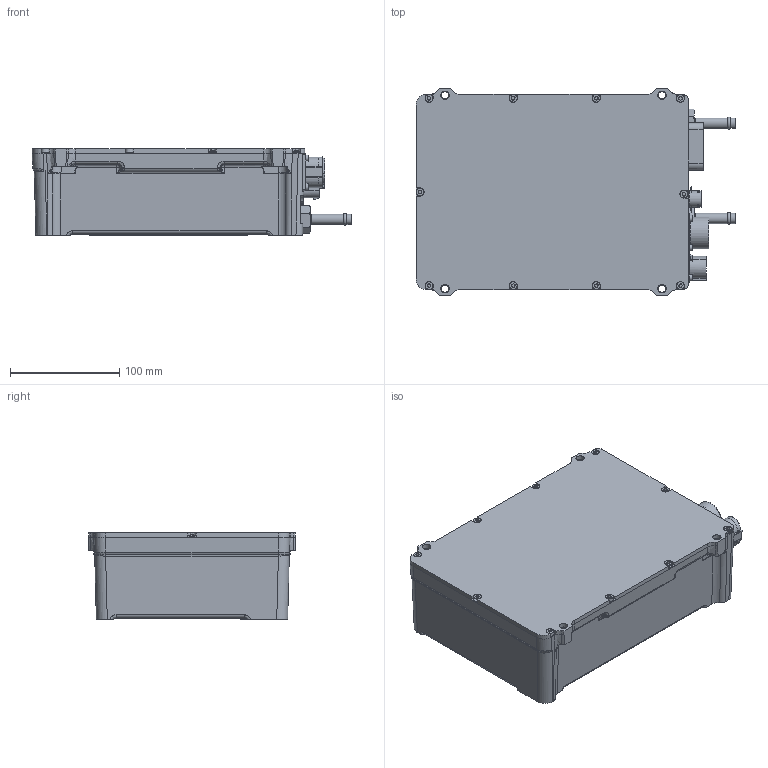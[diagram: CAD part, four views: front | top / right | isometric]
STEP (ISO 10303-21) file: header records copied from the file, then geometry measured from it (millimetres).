
FILE_DESCRIPTION(/* description */ ('CC-550-7500 Step'),/* implementation_level */ '2;1');
FILE_NAME(/* name */ '',/* time_stamp */ '2022-11-22T11:02:03+01:00',/* author */ (''),/* organization */ (''),/* preprocessor_version */ 'ST-DEVELOPER v18.1',/* originating_system */ 'Autodesk Inventor 2021',/* authorisation */ '');
FILE_SCHEMA (('AUTOMOTIVE_DESIGN { 1 0 10303 214 3 1 1 }'));
Products named in the file (1): 020475
Bounding box: 292.81 x 189 x 79 mm (x, y, z)
Volume: 3216337.2 mm3; surface area: 180964.5 mm2
Topology: 1 solids, 1 shells, 2705 faces, 7441 edges, 4835 vertices
Faces by surface type: plane 1476, cylinder 804, bspline 246, cone 129, torus 42, sphere 8
Full cylindrical faces by diameter (mm): 1.3 x23, 1.9 x6, 2 x6, 4.55 x3, 4.917 x5, 5.15 x3, 5.6 x4, 6 x3, 6.7 x4, 7.7 x4, 7.8 x2, 8 x3, 8.103 x2, 9.525 x4, 9.538 x2, 10.26 x1, 10.4 x1, 10.5 x1, 10.7 x1, 15 x1, 15.8 x1
Entity records: 101736 total; most frequent: CARTESIAN_POINT 30981, ORIENTED_EDGE 14834, DIRECTION 13350, EDGE_CURVE 7417, VERTEX_POINT 4835, LINE 4554, VECTOR 4554, AXIS2_PLACEMENT_3D 4398
